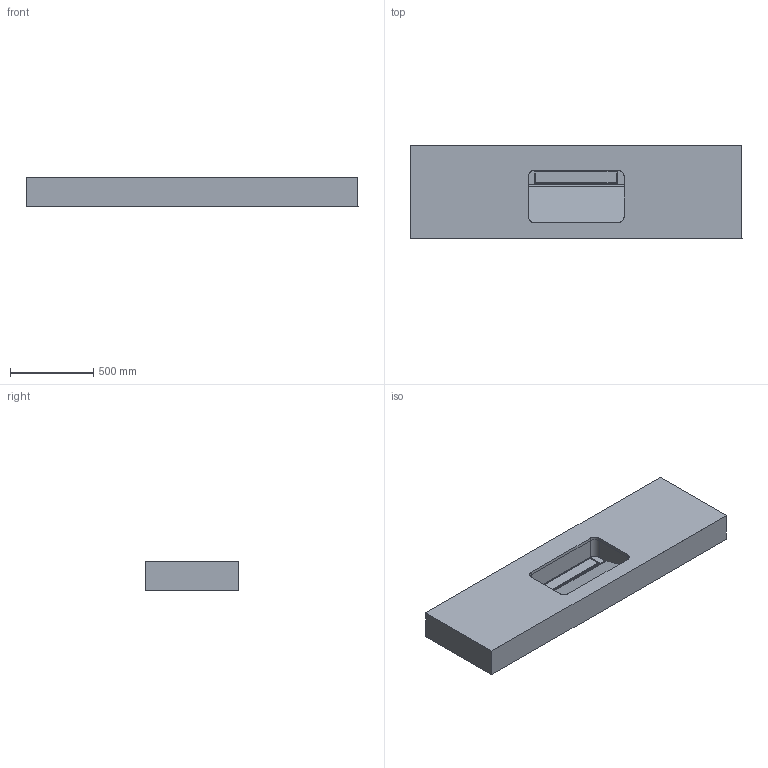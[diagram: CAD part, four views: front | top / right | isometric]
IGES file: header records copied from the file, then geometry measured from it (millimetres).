
Global section: file name: D:\Desktop\GIOVANNI\SCHEDE PRODOTTO\PIANI LAVABO\VERSUS\3D\MOMA DESIGN_PIANI LAVABO_VERSUS SYSTEM.igs; native system: Rhinoceros ( Jan 17 2018 ); preprocessor: Trout Lake IGES 012 Jan 17 2018; date: 230607.121207; units: millimetre
Bounding box: 1999.9 x 564.29 x 174.79 mm (x, y, z)
Surface area: 4086617.8 mm2 (no closed solid volume)
Topology: 0 solids, 0 shells, 126 faces, 1355 edges, 1352 vertices
Faces by surface type: bspline 126
